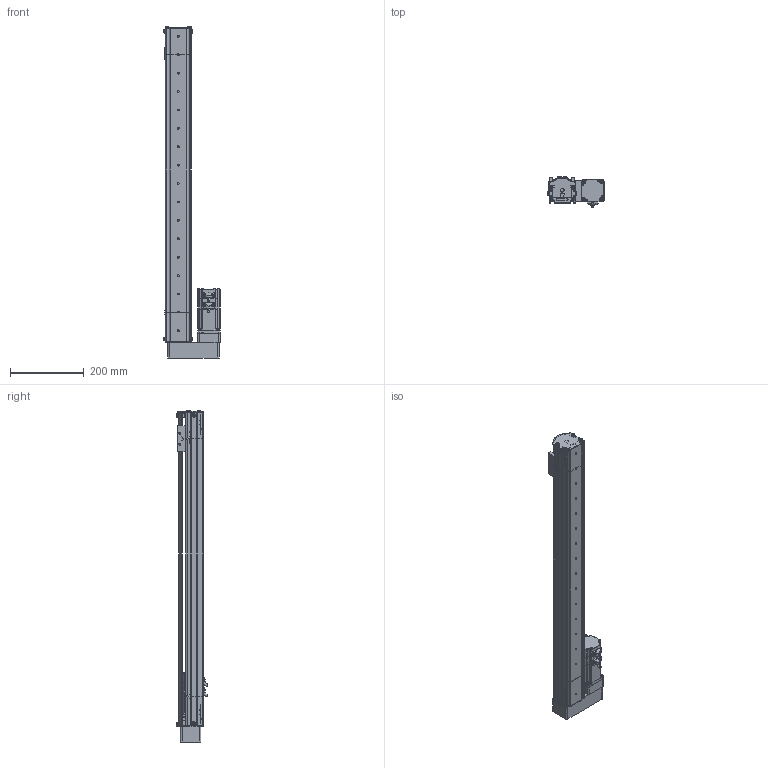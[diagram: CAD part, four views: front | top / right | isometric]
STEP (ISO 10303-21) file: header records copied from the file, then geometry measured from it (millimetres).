
FILE_DESCRIPTION (( 'STEP AP214' ), '1' );
FILE_NAME ('S07 TS BR S700.STEP', '2010-06-29T11:13:51', ( 'Conseil Régional Haute-Normandie' ), ( 'Conseil Régional Haute-Normandie' ), 'SwSTEP 2.0', 'SolidWorks 2010', '' );
FILE_SCHEMA (( 'AUTOMOTIVE_DESIGN' ));
Length unit declared in the file: millimetre
Products named in the file (35): couvercle S07 (78); Chariot; vis M5 L12_Default; arbre S07 moteur; GMB 60 90 310_Default; P2 90A_Default; Axe 60BLDC_Default; P4_Default; plaque de bout_Default; T皻e d''axe Haut 2_Default; S07 BR(124)_Default; S07 TS BR S700; corp couvert coupé_Default; S07 tail (78)_Default; chariot_Default; corp moteur BR(124)_Default; vis M5 L5_Default; plaque de bout BR_Default; P1_Default; vis M5 L16_Default; Course 700_Default; Vis M5 L16-2_Default; VisM3_Default; couvercle S07 course 700 ; arbre + rail Course 700 ; Corp S07 course 700_Default; Arbre+rail tail78; P3 90A_Default; Conecteur 60BLDC_Default; Conecteur2 60BLDC_Default; T皻e d''axe bas_Default; guide; couvercle moteur S07 BR(124); rail S07 moteur; Plaque racord_Default
Assembly tree (61 placements, depth 4):
  S07 TS BR S700
    Course 700_Default
      arbre + rail Course 700 
      Corp S07 course 700_Default
      couvercle S07 course 700 
    chariot_Default
      vis M5 L12_Default  x2
      Chariot
      guide
    S07 BR(124)_Default
      Vis M5 L16-2_Default  x4
      vis M5 L12_Default  x2
      rail S07 moteur
      Plaque racord_Default
      vis M5 L5_Default  x2
      corp moteur BR(124)_Default
      GMB 60 90 310_Default
        VisM3_Default  x12
        P4_Default
        P3 90A_Default
        P2 90A_Default
        Conecteur2 60BLDC_Default
        Conecteur 60BLDC_Default
        P1_Default
        Axe 60BLDC_Default
      arbre S07 moteur
      couvercle moteur S07 BR(124)
      plaque de bout BR_Default
    S07 tail (78)_Default
      corp couvert coupé_Default
      vis M5 L12_Default  x8
      T皻e d''axe Haut 2_Default
      plaque de bout_Default
      T皻e d''axe bas_Default
      Arbre+rail tail78
      vis M5 L16_Default  x2
      couvercle S07 (78)
Bounding box: 152.2 x 83.7 x 902 mm (x, y, z)
Volume: 2192577.8 mm3; surface area: 764270.8 mm2
Topology: 82 solids, 82 shells, 3362 faces, 8472 edges, 5503 vertices
Faces by surface type: plane 1903, bspline 677, cylinder 597, torus 96, cone 89
Entity records: 158476 total; most frequent: CARTESIAN_POINT 73617, ORIENTED_EDGE 14200, DIRECTION 10951, EDGE_CURVE 7100, VERTEX_POINT 4693, VECTOR 4661, LINE 4661, AXIS2_PLACEMENT_3D 3145
